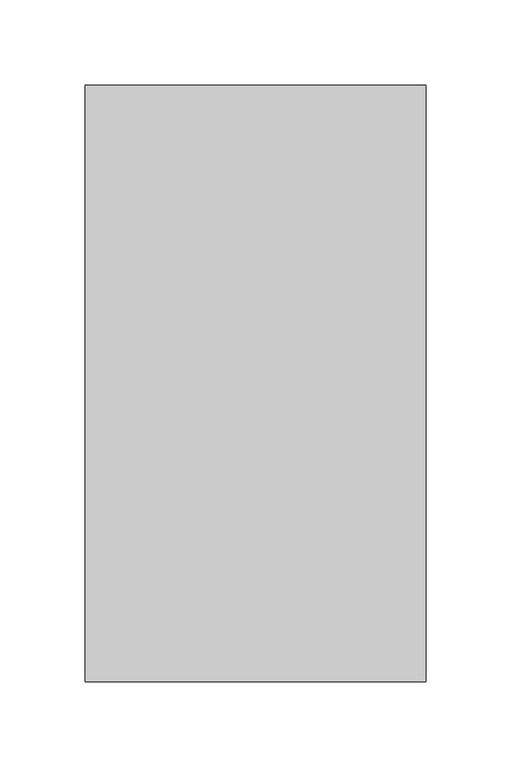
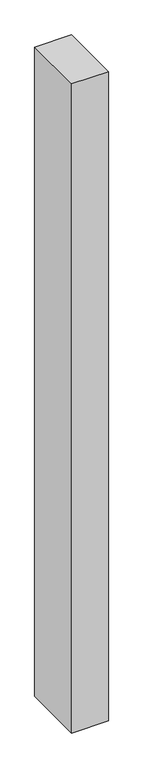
"""IFC4 building model written with IfcOpenShell, lengths in millimetres: column geometry, Poteaux porteurs - Poteau béton - Rectangulaire - 2000mm x 350 mm."""

import ifcopenshell
import ifcopenshell.guid

model = None  # the IFC model being written
_history = None  # IfcOwnerHistory: only IFC2X3 demands one
_inside = {}  # id of a spatial element -> (the spatial element, [elements in it])
_under = {}  # id of a project, library or spatial element -> (it, [spatial elements below it])
_declared = {}  # id of a project -> (the project, [libraries it declares])
_typed = {}  # id of a type object -> (the type object, [elements of that type])
_made_of = {}  # id of a material, layer set ... -> (it, [elements and type objects made of it])


def new_model(schema):
    """Start an empty IFC model of exactly this schema.

    Asked for "IFC4X3", IfcOpenShell would pick the latest addendum, in which some entities
    have other attributes; the version numbers below select the first issue.
    IFC2X3 requires an IfcOwnerHistory on every rooted entity: one is made here for all.
    """
    global model, _history
    if schema == "IFC4X3":
        model = ifcopenshell.file(schema_version=(4, 3, 0, 0))
    else:
        model = ifcopenshell.file(schema=schema)
    _inside.clear()
    _under.clear()
    _declared.clear()
    _typed.clear()
    _made_of.clear()
    _history = None
    if model.schema == "IFC2X3":
        org = make("IfcOrganization", Name="unknown")
        user = make(
            "IfcPersonAndOrganization",
            ThePerson=make("IfcPerson", FamilyName="unknown"),
            TheOrganization=org,
        )
        app = make(
            "IfcApplication",
            ApplicationDeveloper=org,
            Version="unknown",
            ApplicationFullName="unknown",
            ApplicationIdentifier="unknown",
        )
        _history = make(
            "IfcOwnerHistory",
            OwningUser=user,
            OwningApplication=app,
            ChangeAction="ADDED",
            CreationDate=0,
        )
    return model


def make(cls, **values):
    """One entity of the class cls with the attributes given. An attribute that is None is left unset."""
    return model.create_entity(
        cls, **{name: value for name, value in values.items() if value is not None}
    )


def rooted(cls, **values):
    """An entity with a GlobalId (a new one), such as an element, a storey or a relation."""
    return make(cls, GlobalId=ifcopenshell.guid.new(), OwnerHistory=_history, **values)


def si_unit(unit_type, name, prefix=None):
    """IfcSIUnit, for example si_unit("LENGTHUNIT", "METRE", prefix="MILLI")."""
    return make("IfcSIUnit", UnitType=unit_type, Prefix=prefix, Name=name)


def assignment(units):
    """IfcUnitAssignment: the units of a project."""
    return None if units is None else make("IfcUnitAssignment", Units=units)


def point(xyz):
    """IfcCartesianPoint."""
    return None if xyz is None else make("IfcCartesianPoint", Coordinates=xyz)


def direction(xyz):
    """IfcDirection."""
    return None if xyz is None else make("IfcDirection", DirectionRatios=xyz)


def frame(location, z_axis=None, x_axis=None):
    """IfcAxis2Placement3D, a coordinate frame: its origin and axes. An axis left out is left unset."""
    return make(
        "IfcAxis2Placement3D",
        Location=point(location),
        Axis=direction(z_axis),
        RefDirection=direction(x_axis),
    )


def origin():
    """The frame at (0, 0, 0) with its axes left unset."""
    return frame((0.0, 0.0, 0.0))


def place(relative_to, where):
    """IfcLocalPlacement: puts the frame where relative to a parent placement (None: the world)."""
    return make(
        "IfcLocalPlacement", PlacementRelTo=relative_to, RelativePlacement=where
    )


def context(
    kind, dimensions, precision=None, world=None, true_north=None, identifier=None
):
    """IfcGeometricRepresentationContext, for example the 3D "Model" context."""
    return make(
        "IfcGeometricRepresentationContext",
        ContextIdentifier=identifier,
        ContextType=kind,
        CoordinateSpaceDimension=dimensions,
        Precision=precision,
        WorldCoordinateSystem=world,
        TrueNorth=true_north,
    )


def project(units=None, contexts=None):
    """IfcProject with its units and contexts."""
    return rooted(
        "IfcProject",
        Name="project",
        RepresentationContexts=contexts,
        UnitsInContext=assignment(units),
    )


def spatial(cls, under=None, at=None, **own):
    """A site, building, storey or space (cls), placed at a placement, below another one or the project."""
    s = rooted(cls, ObjectPlacement=at, **own)
    if under is not None:
        _under.setdefault(under.id(), (under, []))[1].append(s)
    return s


def polyline(points):
    """IfcPolyline through the points."""
    return make("IfcPolyline", Points=[point(p) for p in points])


def outline(outer, holes=None, kind="AREA"):
    """IfcArbitraryClosedProfileDef: a profile drawn as a closed curve; with holes, ...WithVoids."""
    if holes is None:
        return make("IfcArbitraryClosedProfileDef", ProfileType=kind, OuterCurve=outer)
    return make(
        "IfcArbitraryProfileDefWithVoids",
        ProfileType=kind,
        OuterCurve=outer,
        InnerCurves=holes,
    )


def extrude(swept, where, along, depth):
    """IfcExtrudedAreaSolid: the profile swept, set in the frame where, extruded along a direction by depth."""
    return make(
        "IfcExtrudedAreaSolid",
        SweptArea=swept,
        Position=where,
        ExtrudedDirection=direction(along),
        Depth=depth,
    )


def shape(context_of_items, identifier, shape_type, items):
    """IfcShapeRepresentation: the items that make up one representation, for example the "Body"."""
    return make(
        "IfcShapeRepresentation",
        ContextOfItems=context_of_items,
        RepresentationIdentifier=identifier,
        RepresentationType=shape_type,
        Items=items,
    )


def source(mapping_origin, context_of_items, identifier, shape_type, items):
    """IfcRepresentationMap: a shape defined once, which mapped items show again and again."""
    return make(
        "IfcRepresentationMap",
        MappingOrigin=mapping_origin,
        MappedRepresentation=shape(context_of_items, identifier, shape_type, items),
    )


def transform(
    local_origin,
    x_axis=None,
    y_axis=None,
    z_axis=None,
    scale=None,
    scale2=None,
    scale3=None,
    uniform=True,
):
    """IfcCartesianTransformationOperator3D, or its non-uniform kind. x_axis, y_axis, z_axis: its Axis1, 2, 3."""
    if uniform:
        return make(
            "IfcCartesianTransformationOperator3D",
            Axis1=direction(x_axis),
            Axis2=direction(y_axis),
            LocalOrigin=point(local_origin),
            Scale=scale,
            Axis3=direction(z_axis),
        )
    return make(
        "IfcCartesianTransformationOperator3DnonUniform",
        Axis1=direction(x_axis),
        Axis2=direction(y_axis),
        LocalOrigin=point(local_origin),
        Scale=scale,
        Axis3=direction(z_axis),
        Scale2=scale2,
        Scale3=scale3,
    )


def mapped(mapping_source, mapping_target):
    """IfcMappedItem: shows the shape of a source again, moved by a transform."""
    return make(
        "IfcMappedItem", MappingSource=mapping_source, MappingTarget=mapping_target
    )


def made_of(thing, what):
    """Note that an element or type object is made of a material, layer set ...; save() writes the relation."""
    if what is not None:
        _made_of.setdefault(what.id(), (what, []))[1].append(thing)
    return thing


def element(
    cls,
    number,
    at=None,
    inside=None,
    cuts=None,
    type_object=None,
    material=None,
    context=None,
    identifier="Body",
    shape_type=None,
    held_by="IfcProductDefinitionShape",
    body=None,
    shapes=None,
    **own,
):
    """One element of the class cls, such as IfcWall. Its Tag is "e" and its number.

    at: its placement. inside: the storey or other place that contains it. cuts: it is an
    opening in that element (IfcRelVoidsElement). A single representation is given by context,
    identifier, shape_type and body (its items); several are given by shapes. held_by: the class
    of the entity that holds the representations. save() writes the other relations.
    """
    e = rooted(cls, Tag="e%d" % number, ObjectPlacement=at, **own)
    if body is not None:
        shapes = [shape(context, identifier, shape_type, body)]
    if shapes is not None:
        e.Representation = make(held_by, Representations=shapes)
    if inside is not None:
        _inside.setdefault(inside.id(), (inside, []))[1].append(e)
    if cuts is not None:
        rooted(
            "IfcRelVoidsElement", RelatingBuildingElement=cuts, RelatedOpeningElement=e
        )
    if type_object is not None:
        _typed.setdefault(type_object.id(), (type_object, []))[1].append(e)
    return made_of(e, material)


def aggregate(whole, parts):
    """IfcRelAggregates: a whole, such as a stair, and the parts it consists of."""
    return rooted("IfcRelAggregates", RelatingObject=whole, RelatedObjects=parts)


def save(model, path):
    """Write the relations noted so far, then the file.

    IfcRelAggregates (storeys below a building ...), IfcRelContainedInSpatialStructure (elements
    in a storey), IfcRelDefinesByType, IfcRelAssociatesMaterial and IfcRelDeclares: one each for
    every whole, place, type object, material and project.
    """
    for whole, parts in _under.values():
        aggregate(whole, parts)
    for where, things in _inside.values():
        rooted(
            "IfcRelContainedInSpatialStructure",
            RelatedElements=things,
            RelatingStructure=where,
        )
    for kind, things in _typed.values():
        rooted("IfcRelDefinesByType", RelatedObjects=things, RelatingType=kind)
    for what, things in _made_of.values():
        rooted("IfcRelAssociatesMaterial", RelatedObjects=things, RelatingMaterial=what)
    for by, libraries in _declared.values():
        rooted("IfcRelDeclares", RelatingContext=by, RelatedDefinitions=libraries)
    model.write(path)


def column_0d4067bd(model_context):
    return source(origin(), model_context, "Body", "SweptSolid", [
        extrude(outline(polyline([(-12058.4196435, -8232.7637435), (-11858.4196435, -8232.7637435), (-11858.4196435, -8582.7637435), (-12058.4196435, -8582.7637435), (-12058.4196435, -8232.7637435)])), frame((0.0, 0.0, -200.0), z_axis=(0.0, 0.0, 1.0), x_axis=(1.0, 0.0, 0.0)), (0.0, 0.0, 1.0), 3750.0),
    ])


if __name__ == "__main__":
    model = new_model("IFC4")
    model_context = context("Model", 3, world=origin())
    ifc_project = project(units=[si_unit("LENGTHUNIT", "METRE", prefix="MILLI")], contexts=[model_context])
    site = spatial("IfcSite", under=ifc_project)
    building = spatial("IfcBuilding", under=site)
    placement = place(None, origin())
    column_shape = column_0d4067bd(model_context)
    element("IfcColumn", 1, ObjectType="Poteaux porteurs - Poteau béton - Rectangulaire - 2000mm x 350 mm", at=placement, inside=building, context=model_context, shape_type="MappedRepresentation", body=[
        mapped(column_shape, transform((0.0, 0.0, 0.0), x_axis=(1.0, 0.0, 0.0), y_axis=(0.0, 1.0, 0.0), z_axis=(0.0, 0.0, 1.0))),
    ])
    save(model, "model.ifc")
